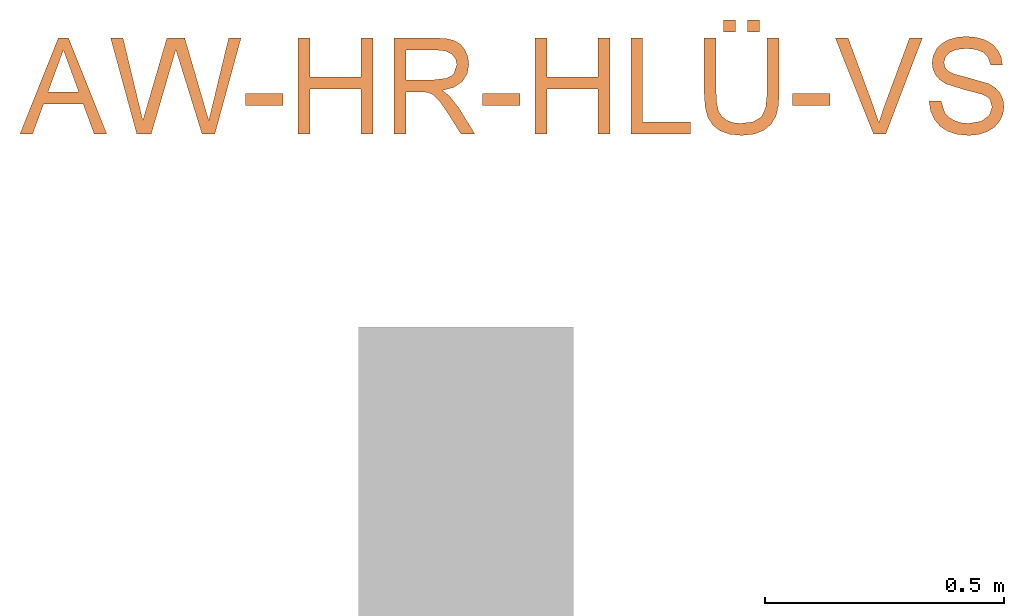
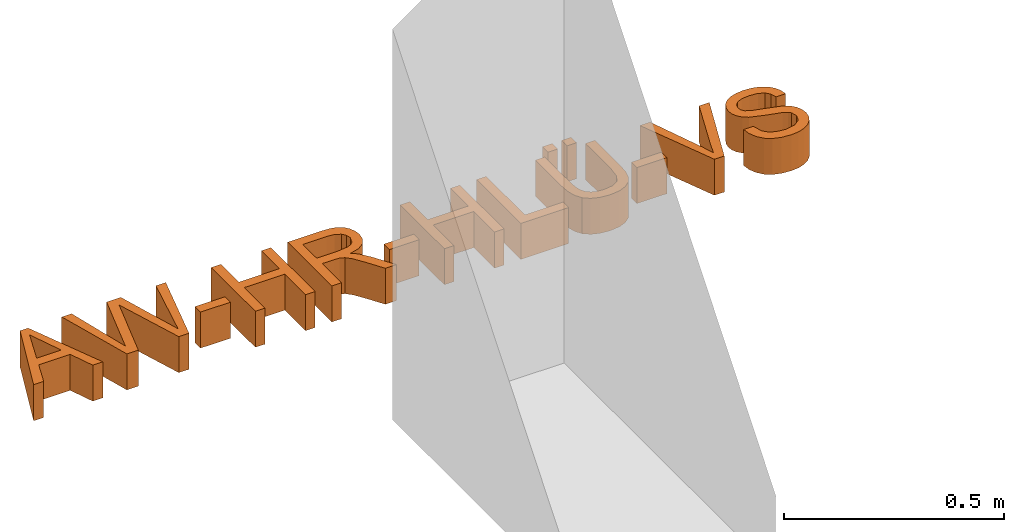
# Not in any storey, part 2 of 2: 1 proxy.
"""IFC2X3 model written with IfcOpenShell, lengths in metres."""

from ifc_helpers import new_model, entity, si_unit, converted_unit, derived_unit, direction, frame, frame_2d, origin, place, context, subcontext, project, spatial, polyline, rectangle, outline, extrude, type_object, element, save


model = new_model("IFC2X3")

# Units and contexts
model_context = context("Model", 3, precision=1e-05, world=origin(), true_north=direction((6.123031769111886e-17, 1.0)))
body_context = subcontext(model_context, "Body", "Model", "MODEL_VIEW")
ifc_project = project(units=[si_unit("LENGTHUNIT", "METRE"), si_unit("AREAUNIT", "SQUARE_METRE"), si_unit("VOLUMEUNIT", "CUBIC_METRE"), converted_unit("PLANEANGLEUNIT", "DEGREE", entity("IfcRatioMeasure", 0.017453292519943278), si_unit("PLANEANGLEUNIT", "RADIAN"), dimensions=[0, 0, 0, 0, 0, 0, 0]), si_unit("MASSUNIT", "GRAM", prefix="KILO"), derived_unit("MASSDENSITYUNIT", [(si_unit("MASSUNIT", "GRAM", prefix="KILO"), 1), (si_unit("LENGTHUNIT", "METRE"), -3)]), derived_unit("MOMENTOFINERTIAUNIT", [(si_unit("LENGTHUNIT", "METRE"), 4)]), si_unit("TIMEUNIT", "SECOND"), si_unit("FREQUENCYUNIT", "HERTZ"), si_unit("THERMODYNAMICTEMPERATUREUNIT", "DEGREE_CELSIUS"), derived_unit("THERMALTRANSMITTANCEUNIT", [(si_unit("MASSUNIT", "GRAM", prefix="KILO"), 1), (si_unit("THERMODYNAMICTEMPERATUREUNIT", "KELVIN"), -1), (si_unit("TIMEUNIT", "SECOND"), -3)]), derived_unit("VOLUMETRICFLOWRATEUNIT", [(si_unit("LENGTHUNIT", "METRE"), 3), (si_unit("TIMEUNIT", "SECOND"), -1)]), derived_unit("MASSFLOWRATEUNIT", [(si_unit("MASSUNIT", "GRAM", prefix="KILO"), 1), (si_unit("TIMEUNIT", "SECOND"), -1)]), derived_unit("ROTATIONALFREQUENCYUNIT", [(si_unit("TIMEUNIT", "SECOND"), -1)]), si_unit("ELECTRICCURRENTUNIT", "AMPERE"), si_unit("ELECTRICVOLTAGEUNIT", "VOLT"), si_unit("POWERUNIT", "WATT"), si_unit("FORCEUNIT", "NEWTON", prefix="KILO"), si_unit("ILLUMINANCEUNIT", "LUX"), si_unit("LUMINOUSFLUXUNIT", "LUMEN"), si_unit("LUMINOUSINTENSITYUNIT", "CANDELA"), derived_unit("USERDEFINED", [(si_unit("MASSUNIT", "GRAM", prefix="KILO"), -1), (si_unit("LENGTHUNIT", "METRE"), -2), (si_unit("TIMEUNIT", "SECOND"), 3), (si_unit("LUMINOUSFLUXUNIT", "LUMEN"), 1)]), derived_unit("SOUNDPOWERUNIT", [(si_unit("MASSUNIT", "GRAM", prefix="KILO"), 1), (si_unit("LENGTHUNIT", "METRE"), 2), (si_unit("TIMEUNIT", "SECOND"), -3)]), derived_unit("SOUNDPRESSUREUNIT", [(si_unit("MASSUNIT", "GRAM", prefix="KILO"), 1), (si_unit("LENGTHUNIT", "METRE"), -1), (si_unit("TIMEUNIT", "SECOND"), -2)]), derived_unit("LINEARVELOCITYUNIT", [(si_unit("LENGTHUNIT", "METRE"), 1), (si_unit("TIMEUNIT", "SECOND"), -1)]), si_unit("PRESSUREUNIT", "PASCAL"), derived_unit("USERDEFINED", [(si_unit("LENGTHUNIT", "METRE"), -2), (si_unit("MASSUNIT", "GRAM", prefix="KILO"), 1), (si_unit("TIMEUNIT", "SECOND"), -2)]), derived_unit("LINEARFORCEUNIT", [(si_unit("MASSUNIT", "GRAM", prefix="KILO"), 1), (si_unit("LENGTHUNIT", "METRE"), 1), (si_unit("TIMEUNIT", "SECOND"), -2), (si_unit("LENGTHUNIT", "METRE"), -1)]), derived_unit("PLANARFORCEUNIT", [(si_unit("MASSUNIT", "GRAM", prefix="KILO"), 1), (si_unit("LENGTHUNIT", "METRE"), 1), (si_unit("TIMEUNIT", "SECOND"), -2), (si_unit("LENGTHUNIT", "METRE"), -2)])], contexts=[model_context])

# Site
site_placement = place(None, origin())
site = spatial("IfcSite", under=ifc_project, at=site_placement, Name="Default", CompositionType="ELEMENT")

# Proxy
building_element_proxy_type = type_object("IfcBuildingElementProxyType", Name="Modelltext:600mm Arial", PredefinedType="NOTDEFINED")
proxy_placement = place(site_placement, origin())
element("IfcBuildingElementProxy", 1, at=proxy_placement, inside=site, type_object=building_element_proxy_type, Name="Modelltext:600mm Arial", ObjectType="Modelltext:600mm Arial", context=body_context, shape_type="SweptSolid", body=[
    extrude(outline(polyline([(-0.09088524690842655, -0.0659244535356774), (-0.06434869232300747, -0.0659244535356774), (-0.04139285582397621, -0.003139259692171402), (0.04135606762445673, -0.003139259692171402), (0.06436095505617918, -0.0659244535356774), (0.09089750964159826, -0.0659244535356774), (0.010699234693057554, 0.1349881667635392), (-0.01068697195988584, 0.1349881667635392), (-0.09088524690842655, -0.0659244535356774)]), holes=[polyline([(-0.03217128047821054, 0.021974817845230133), (-0.012501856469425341, 0.07568558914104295), (6.1313665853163e-06, 0.10987408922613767), (0.01408374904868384, 0.07136910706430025), (0.032183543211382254, 0.021974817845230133), (-0.03217128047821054, 0.021974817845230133)])]), frame((7.084400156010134, 24.273217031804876, 0.0)), (0.0, 0.0, 1.0), 0.1),
    extrude(outline(polyline([(-0.08129804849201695, -0.1077055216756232), (-0.050984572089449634, -0.1077055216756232), (-0.0070839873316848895, 0.042880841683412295), (0.0004698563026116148, 0.06892688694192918), (0.007189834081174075, 0.047295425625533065), (0.05535784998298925, -0.1077055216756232), (0.08218871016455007, -0.1077055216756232), (0.1370276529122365, 0.09320709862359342), (0.11112876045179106, 0.09320709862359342), (0.07904945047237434, -0.040015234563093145), (0.069533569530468, -0.07959933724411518), (0.048000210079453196, -0.00592483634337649), (0.019060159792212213, 0.09320709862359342), (-0.018267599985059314, 0.09320709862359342), (-0.05809695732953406, -0.043546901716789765), (-0.06859385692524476, -0.07959933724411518), (-0.07840404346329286, -0.038838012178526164), (-0.11018904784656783, 0.09320709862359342), (-0.1360879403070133, 0.09320709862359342), (-0.08129804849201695, -0.1077055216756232)])), frame((7.319380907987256, 24.314998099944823, 0.0)), (0.0, 0.0, 1.0), 0.1),
    extrude(rectangle(XDim=0.0784814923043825, YDim=0.02511407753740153, at=frame_2d((0.0, 2.1658022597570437e-15), x_axis=(1.0, 0.0))), frame((7.50506708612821, 24.27949555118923, 0.0)), (0.0, 0.0, 1.0), 0.1),
    extrude(outline(polyline([(-0.07848149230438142, -0.10254914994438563), (-0.0533674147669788, -0.10254914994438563), (-0.0533674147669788, -0.008371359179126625), (0.05336741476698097, -0.008371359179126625), (0.05336741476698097, -0.10254914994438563), (0.0784814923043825, -0.10254914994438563), (0.0784814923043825, 0.09836347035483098), (0.05336741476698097, 0.09836347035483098), (0.05336741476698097, 0.01674271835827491), (-0.0533674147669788, 0.01674271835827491), (-0.0533674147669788, 0.09836347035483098), (-0.07848149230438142, 0.09836347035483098), (-0.07848149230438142, -0.10254914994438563)])), frame((7.654181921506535, 24.309841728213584, 0.0)), (0.0, 0.0, 1.0), 0.1),
    extrude(outline(polyline([(-0.10313418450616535, -0.10350768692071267), (-0.07802010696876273, -0.10350768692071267), (-0.07802010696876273, -0.01560841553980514), (-0.04770663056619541, -0.01560841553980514), (-0.0331385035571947, -0.016491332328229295), (-0.021194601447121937, -0.02127379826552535), (-0.007926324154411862, -0.03429682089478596), (0.010958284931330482, -0.06186344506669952), (0.037102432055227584, -0.10350768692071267), (0.06628773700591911, -0.10350768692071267), (0.032785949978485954, -0.04906115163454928), (0.012429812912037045, -0.023211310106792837), (-0.00184400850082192, -0.012469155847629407), (0.022896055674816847, -0.005810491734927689), (0.040217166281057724, 0.006219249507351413), (0.05042589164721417, 0.022626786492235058), (0.05382880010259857, 0.04241883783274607), (0.051774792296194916, 0.05832973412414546), (0.04561276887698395, 0.07280589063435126), (0.03601104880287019, 0.08448001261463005), (0.023637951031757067, 0.09198480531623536), (0.006709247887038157, 0.09604990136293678), (-0.016559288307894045, 0.09740493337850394), (-0.10313418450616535, 0.09740493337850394), (-0.10313418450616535, -0.10350768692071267)]), holes=[polyline([(-0.07802010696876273, 0.009505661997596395), (-0.07802010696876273, 0.0722908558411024), (-0.015480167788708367, 0.0722908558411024), (0.0043915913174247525, 0.07012035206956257), (0.018095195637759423, 0.0636088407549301), (0.02605984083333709, 0.053737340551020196), (0.028714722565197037, 0.04148687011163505), (0.02314744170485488, 0.024441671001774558), (0.016292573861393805, 0.017684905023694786), (0.006862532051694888, 0.013061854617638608), (-0.02180773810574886, 0.009505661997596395), (-0.07802010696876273, 0.009505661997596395)])]), frame((7.879747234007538, 24.31080026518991, 0.0)), (0.0, 0.0, 1.0), 0.1),
    extrude(rectangle(XDim=0.0784814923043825, YDim=0.02511407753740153, at=frame_2d((0.0, 2.1658022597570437e-15), x_axis=(1.0, 0.0))), frame((8.001070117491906, 24.27949555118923, 0.0)), (0.0, 0.0, 1.0), 0.1),
    extrude(outline(polyline([(-0.0784814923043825, -0.10254914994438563), (-0.053367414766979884, -0.10254914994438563), (-0.053367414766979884, -0.008371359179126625), (0.05336741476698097, -0.008371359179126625), (0.05336741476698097, -0.10254914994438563), (0.0784814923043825, -0.10254914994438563), (0.0784814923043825, 0.09836347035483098), (0.05336741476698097, 0.09836347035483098), (0.05336741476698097, 0.01674271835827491), (-0.053367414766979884, 0.01674271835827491), (-0.053367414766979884, 0.09836347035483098), (-0.0784814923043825, 0.09836347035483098), (-0.0784814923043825, -0.10254914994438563)])), frame((8.150184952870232, 24.309841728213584, 0.0)), (0.0, 0.0, 1.0), 0.1),
    extrude(outline(polyline([(-0.05022815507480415, -0.07534223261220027), (0.07534223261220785, -0.07534223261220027), (0.07534223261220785, -0.05022815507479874), (-0.025114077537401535, -0.05022815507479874), (-0.025114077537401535, 0.12557038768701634), (-0.05022815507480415, 0.12557038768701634), (-0.05022815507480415, -0.07534223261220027)])), frame((8.322844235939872, 24.282634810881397, 0.0)), (0.0, 0.0, 1.0), 0.1),
    extrude(rectangle(XDim=0.025114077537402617, YDim=0.02511407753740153, at=frame_2d((-5.412337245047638e-16, 2.1658022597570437e-15), x_axis=(1.0, 0.0))), frame((8.479807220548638, 24.433319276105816, 0.0)), (0.0, 0.0, 1.0), 0.1),
    extrude(rectangle(XDim=0.0784814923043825, YDim=0.02511407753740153, at=frame_2d((0.0, 2.1658022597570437e-15), x_axis=(1.0, 0.0))), frame((8.65089687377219, 24.27949555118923, 0.0)), (0.0, 0.0, 1.0), 0.1),
    extrude(outline(polyline([(-0.011641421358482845, -0.10439128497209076), (0.014306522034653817, -0.10439128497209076), (0.0908750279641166, 0.09652133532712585), (0.06399511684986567, 0.09652133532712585), (0.010333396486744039, -0.04822796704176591), (-0.0003597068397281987, -0.08084683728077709), (-0.011199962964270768, -0.04822796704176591), (-0.06471453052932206, 0.09652133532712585), (-0.091594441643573, 0.09652133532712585), (-0.011641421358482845, -0.10439128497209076)])), frame((8.792523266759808, 24.31168386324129, 0.0)), (0.0, 0.0, 1.0), 0.1),
    extrude(outline(polyline([(-0.13955778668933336, -0.0559653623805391), (-0.13955778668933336, -0.08107943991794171), (-0.02365043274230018, -0.08107943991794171), (0.0034931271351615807, -0.07937492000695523), (0.0243949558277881, -0.07426136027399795), (0.040520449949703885, -0.0647086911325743), (0.05333500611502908, -0.04968684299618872), (0.0617043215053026, -0.02915902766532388), (0.06449409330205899, -0.003088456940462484), (0.06206607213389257, 0.022411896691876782), (0.054782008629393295, 0.042798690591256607), (0.0428932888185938, 0.05807805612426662), (0.02665129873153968, 0.06825612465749), (0.004866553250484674, 0.07397668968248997), (-0.02365043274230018, 0.07588354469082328), (-0.13955778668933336, 0.07588354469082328), (-0.13955778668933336, 0.05076946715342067), (-0.024533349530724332, 0.05076946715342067), (-0.0019637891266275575, 0.049530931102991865), (0.013750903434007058, 0.04581532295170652), (0.024634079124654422, 0.03908308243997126), (0.03270908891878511, 0.02879464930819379), (0.0377122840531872, 0.01537921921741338), (0.03938001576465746, -0.0007340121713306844), (0.03608134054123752, -0.0262772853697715), (0.026185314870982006, -0.043261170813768), (0.006908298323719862, -0.05278931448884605), (-0.024533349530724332, -0.0559653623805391), (-0.13955778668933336, -0.0559653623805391)])), frame((8.50232335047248, 24.268647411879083, 0.0), z_axis=(0.0, 0.0, -1.0), x_axis=(0.0, -1.0, 0.0)), (0.0, 0.0, -1.0), 0.1),
    extrude(rectangle(XDim=0.025114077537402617, YDim=0.02511407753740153, at=frame_2d((5.412337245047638e-16, 2.1658022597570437e-15), x_axis=(1.0, 0.0))), frame((8.530035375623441, 24.433319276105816, 0.0)), (0.0, 0.0, 1.0), 0.1),
    extrude(outline(polyline([(0.02184305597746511, -0.08305115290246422), (0.04234334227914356, -0.0830511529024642), (0.06136920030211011, -0.07790157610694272), (0.07782931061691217, -0.06794406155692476), (0.09063235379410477, -0.053520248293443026), (0.09983646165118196, -0.03440318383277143), (0.10549976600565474, -0.010365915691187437), (0.10647807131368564, 0.00974895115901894), (0.10328130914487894, 0.02835776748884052), (0.09615707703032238, 0.04448838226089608), (0.08535297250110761, 0.057168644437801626), (0.07192688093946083, 0.06596425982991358), (0.056936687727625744, 0.07044093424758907), (0.04166875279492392, 0.07070714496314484), (0.02770061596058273, 0.06682859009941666), (0.01512330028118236, 0.05858119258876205), (0.004027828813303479, 0.045740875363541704), (-0.014904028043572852, 0.003605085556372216), (-0.025816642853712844, -0.021910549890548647), (-0.03474416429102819, -0.034926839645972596), (-0.0432956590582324, -0.03973132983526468), (-0.05313447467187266, -0.04030612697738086), (-0.06392280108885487, -0.035870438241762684), (-0.07211984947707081, -0.02611404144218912), (-0.07639932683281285, -0.010698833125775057), (-0.07543494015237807, 0.010713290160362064), (-0.07024694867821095, 0.031009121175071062), (-0.06158467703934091, 0.044919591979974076), (-0.04948636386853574, 0.052859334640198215), (-0.03399024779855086, 0.05524298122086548), (-0.030339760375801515, 0.08009033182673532), (-0.04721530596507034, 0.07970652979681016), (-0.06289483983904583, 0.07480898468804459), (-0.07660297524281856, 0.06544490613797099), (-0.08756432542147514, 0.05166150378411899), (-0.09557344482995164, 0.03409789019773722), (-0.10042488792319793, 0.013393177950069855), (-0.10157543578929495, -0.006206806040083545), (-0.09906651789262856, -0.024435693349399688), (-0.09285920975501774, -0.04022708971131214), (-0.08291458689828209, -0.05251460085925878), (-0.07029355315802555, -0.06096884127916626), (-0.05605701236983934, -0.06526042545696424), (-0.04278306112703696, -0.06543199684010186), (-0.030332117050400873, -0.061925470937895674), (-0.018913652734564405, -0.05464810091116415), (-0.008737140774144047, -0.04350713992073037), (0.009238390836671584, -0.006362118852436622), (0.024041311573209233, 0.02842309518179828), (0.030749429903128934, 0.03827023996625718), (0.03780572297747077, 0.04365383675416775), (0.05391709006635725, 0.04550089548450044), (0.06977789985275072, 0.03754363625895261), (0.07978673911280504, 0.01894415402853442), (0.08050981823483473, -0.007686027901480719), (0.07670138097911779, -0.023189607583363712), (0.07013863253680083, -0.036602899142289), (0.061519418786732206, -0.04709885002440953), (0.05154158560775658, -0.053850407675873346), (0.025493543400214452, -0.05820380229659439), (0.02184305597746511, -0.08305115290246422)])), frame((8.976322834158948, 24.31003936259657, 0.0), z_axis=(0.0, 0.0, 1.0), x_axis=(0.14535622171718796, -0.9893793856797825, 0.0)), (0.0, 0.0, 1.0), 0.1),
])

save(model, "model.ifc")
